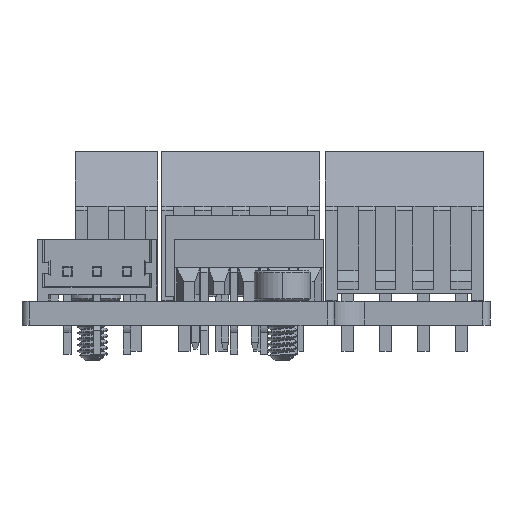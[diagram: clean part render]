
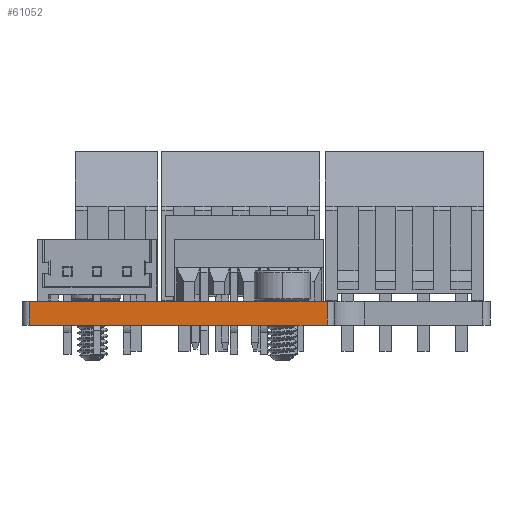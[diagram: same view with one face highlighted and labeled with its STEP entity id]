
A CAD part, left-side view. The second image highlights one B-rep face of the part: STEP entity #61052.
In plain terms, the highlighted planar face has unit normal (-1, 0, 0).
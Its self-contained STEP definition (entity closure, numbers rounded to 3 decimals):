
#58975 = PLANE('',#58976);
#58976 = AXIS2_PLACEMENT_3D('',#58977,#58978,#58979);
#58977 = CARTESIAN_POINT('',(22.17,7.619,1.6));
#58978 = DIRECTION('',(0.,0.,1.));
#58979 = DIRECTION('',(1.,0.,0.));
#59030 = PLANE('',#59031);
#59031 = AXIS2_PLACEMENT_3D('',#59032,#59033,#59034);
#59032 = CARTESIAN_POINT('',(22.17,7.619,0.));
#59033 = DIRECTION('',(0.,0.,1.));
#59034 = DIRECTION('',(1.,0.,0.));
#59161 = CYLINDRICAL_SURFACE('',#59162,0.5);
#59162 = AXIS2_PLACEMENT_3D('',#59163,#59164,#59165);
#59163 = CARTESIAN_POINT('',(0.5,20.55,0.));
#59164 = DIRECTION('',(0.,0.,-1.));
#59165 = DIRECTION('',(1.,0.,0.));
#59200 = VERTEX_POINT('',#59201);
#59201 = CARTESIAN_POINT('',(0.,20.55,0.));
#59223 = EDGE_CURVE('',#59200,#59224,#59226,.T.);
#59224 = VERTEX_POINT('',#59225);
#59225 = CARTESIAN_POINT('',(0.,0.55,0.));
#59226 = SURFACE_CURVE('',#59227,(#59231,#59238),.PCURVE_S1.);
#59227 = LINE('',#59228,#59229);
#59228 = CARTESIAN_POINT('',(0.,20.55,0.));
#59229 = VECTOR('',#59230,1.);
#59230 = DIRECTION('',(0.,-1.,0.));
#59231 = PCURVE('',#59030,#59232);
#59232 = DEFINITIONAL_REPRESENTATION('',(#59233),#59237);
#59233 = LINE('',#59234,#59235);
#59234 = CARTESIAN_POINT('',(-22.17,12.931));
#59235 = VECTOR('',#59236,1.);
#59236 = DIRECTION('',(0.,-1.));
#59237 = ( GEOMETRIC_REPRESENTATION_CONTEXT(2) 
PARAMETRIC_REPRESENTATION_CONTEXT() REPRESENTATION_CONTEXT('2D SPACE',''
  ) );
#59238 = PCURVE('',#59239,#59244);
#59239 = PLANE('',#59240);
#59240 = AXIS2_PLACEMENT_3D('',#59241,#59242,#59243);
#59241 = CARTESIAN_POINT('',(0.,20.55,0.));
#59242 = DIRECTION('',(1.,0.,0.));
#59243 = DIRECTION('',(0.,-1.,0.));
#59244 = DEFINITIONAL_REPRESENTATION('',(#59245),#59249);
#59245 = LINE('',#59246,#59247);
#59246 = CARTESIAN_POINT('',(0.,0.));
#59247 = VECTOR('',#59248,1.);
#59248 = DIRECTION('',(1.,0.));
#59249 = ( GEOMETRIC_REPRESENTATION_CONTEXT(2) 
PARAMETRIC_REPRESENTATION_CONTEXT() REPRESENTATION_CONTEXT('2D SPACE',''
  ) );
#59268 = CYLINDRICAL_SURFACE('',#59269,0.5);
#59269 = AXIS2_PLACEMENT_3D('',#59270,#59271,#59272);
#59270 = CARTESIAN_POINT('',(0.5,0.55,0.));
#59271 = DIRECTION('',(0.,0.,-1.));
#59272 = DIRECTION('',(1.,0.,0.));
#60164 = VERTEX_POINT('',#60165);
#60165 = CARTESIAN_POINT('',(0.,20.55,1.6));
#60187 = EDGE_CURVE('',#60164,#60188,#60190,.T.);
#60188 = VERTEX_POINT('',#60189);
#60189 = CARTESIAN_POINT('',(0.,0.55,1.6));
#60190 = SURFACE_CURVE('',#60191,(#60195,#60202),.PCURVE_S1.);
#60191 = LINE('',#60192,#60193);
#60192 = CARTESIAN_POINT('',(0.,20.55,1.6));
#60193 = VECTOR('',#60194,1.);
#60194 = DIRECTION('',(0.,-1.,0.));
#60195 = PCURVE('',#58975,#60196);
#60196 = DEFINITIONAL_REPRESENTATION('',(#60197),#60201);
#60197 = LINE('',#60198,#60199);
#60198 = CARTESIAN_POINT('',(-22.17,12.931));
#60199 = VECTOR('',#60200,1.);
#60200 = DIRECTION('',(0.,-1.));
#60201 = ( GEOMETRIC_REPRESENTATION_CONTEXT(2) 
PARAMETRIC_REPRESENTATION_CONTEXT() REPRESENTATION_CONTEXT('2D SPACE',''
  ) );
#60202 = PCURVE('',#59239,#60203);
#60203 = DEFINITIONAL_REPRESENTATION('',(#60204),#60208);
#60204 = LINE('',#60205,#60206);
#60205 = CARTESIAN_POINT('',(0.,-1.6));
#60206 = VECTOR('',#60207,1.);
#60207 = DIRECTION('',(1.,0.));
#60208 = ( GEOMETRIC_REPRESENTATION_CONTEXT(2) 
PARAMETRIC_REPRESENTATION_CONTEXT() REPRESENTATION_CONTEXT('2D SPACE',''
  ) );
#61004 = EDGE_CURVE('',#59200,#60164,#61005,.T.);
#61005 = SURFACE_CURVE('',#61006,(#61010,#61017),.PCURVE_S1.);
#61006 = LINE('',#61007,#61008);
#61007 = CARTESIAN_POINT('',(0.,20.55,0.));
#61008 = VECTOR('',#61009,1.);
#61009 = DIRECTION('',(0.,0.,1.));
#61010 = PCURVE('',#59161,#61011);
#61011 = DEFINITIONAL_REPRESENTATION('',(#61012),#61016);
#61012 = LINE('',#61013,#61014);
#61013 = CARTESIAN_POINT('',(-3.142,0.));
#61014 = VECTOR('',#61015,1.);
#61015 = DIRECTION('',(0.,-1.));
#61016 = ( GEOMETRIC_REPRESENTATION_CONTEXT(2) 
PARAMETRIC_REPRESENTATION_CONTEXT() REPRESENTATION_CONTEXT('2D SPACE',''
  ) );
#61017 = PCURVE('',#59239,#61018);
#61018 = DEFINITIONAL_REPRESENTATION('',(#61019),#61023);
#61019 = LINE('',#61020,#61021);
#61020 = CARTESIAN_POINT('',(0.,0.));
#61021 = VECTOR('',#61022,1.);
#61022 = DIRECTION('',(0.,-1.));
#61023 = ( GEOMETRIC_REPRESENTATION_CONTEXT(2) 
PARAMETRIC_REPRESENTATION_CONTEXT() REPRESENTATION_CONTEXT('2D SPACE',''
  ) );
#61052 = ADVANCED_FACE('',(#61053),#59239,.F.);
#61053 = FACE_BOUND('',#61054,.F.);
#61054 = EDGE_LOOP('',(#61055,#61056,#61057,#61078));
#61055 = ORIENTED_EDGE('',*,*,#61004,.T.);
#61056 = ORIENTED_EDGE('',*,*,#60187,.T.);
#61057 = ORIENTED_EDGE('',*,*,#61058,.F.);
#61058 = EDGE_CURVE('',#59224,#60188,#61059,.T.);
#61059 = SURFACE_CURVE('',#61060,(#61064,#61071),.PCURVE_S1.);
#61060 = LINE('',#61061,#61062);
#61061 = CARTESIAN_POINT('',(0.,0.55,0.));
#61062 = VECTOR('',#61063,1.);
#61063 = DIRECTION('',(0.,0.,1.));
#61064 = PCURVE('',#59239,#61065);
#61065 = DEFINITIONAL_REPRESENTATION('',(#61066),#61070);
#61066 = LINE('',#61067,#61068);
#61067 = CARTESIAN_POINT('',(20.,0.));
#61068 = VECTOR('',#61069,1.);
#61069 = DIRECTION('',(0.,-1.));
#61070 = ( GEOMETRIC_REPRESENTATION_CONTEXT(2) 
PARAMETRIC_REPRESENTATION_CONTEXT() REPRESENTATION_CONTEXT('2D SPACE',''
  ) );
#61071 = PCURVE('',#59268,#61072);
#61072 = DEFINITIONAL_REPRESENTATION('',(#61073),#61077);
#61073 = LINE('',#61074,#61075);
#61074 = CARTESIAN_POINT('',(-3.142,0.));
#61075 = VECTOR('',#61076,1.);
#61076 = DIRECTION('',(0.,-1.));
#61077 = ( GEOMETRIC_REPRESENTATION_CONTEXT(2) 
PARAMETRIC_REPRESENTATION_CONTEXT() REPRESENTATION_CONTEXT('2D SPACE',''
  ) );
#61078 = ORIENTED_EDGE('',*,*,#59223,.F.);
